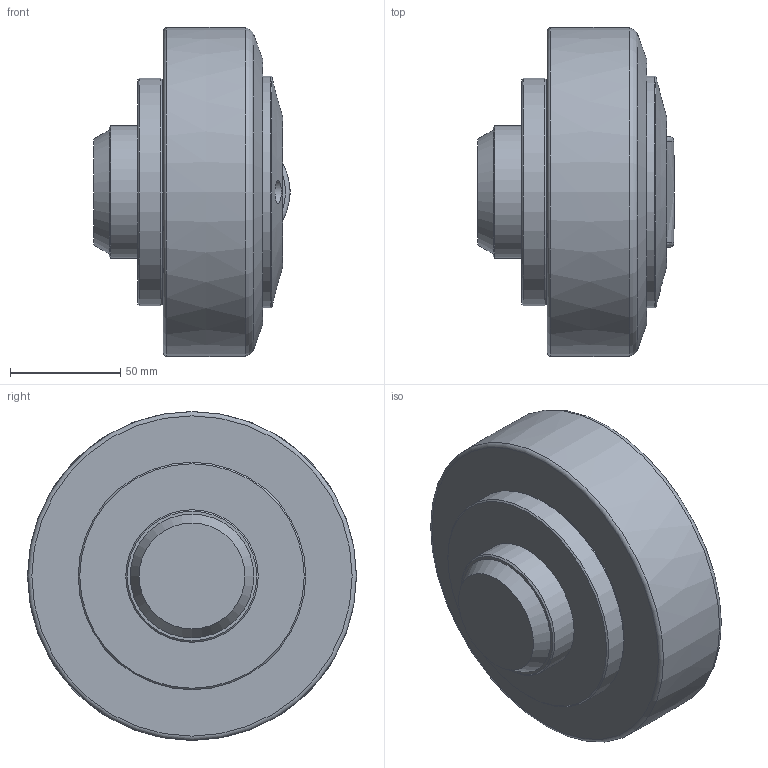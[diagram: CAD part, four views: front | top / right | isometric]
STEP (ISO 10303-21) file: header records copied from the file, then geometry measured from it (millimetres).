
FILE_DESCRIPTION(/* description */ (''),/* implementation_level */ '2;1');
FILE_NAME(/* name */ 'C:\Users\gabriele oddo\Desktop\400-0080.step',/* time_stamp */ '2023-07-26T08:19:40+02:00',/* author */ ('gabriele oddo'),/* organization */ (''),/* preprocessor_version */ 'ST-DEVELOPER v19',/* originating_system */ 'Autodesk Inventor 2023',/* authorisation */ '');
FILE_SCHEMA (('AUTOMOTIVE_DESIGN { 1 0 10303 214 3 1 1 }'));
Length unit declared in the file: millimetre
Products named in the file (1): 400-0080
Bounding box: 89 x 149 x 148.99 mm (x, y, z)
Volume: 979912.6 mm3; surface area: 61961.2 mm2
Topology: 1 solids, 1 shells, 44 faces, 99 edges, 66 vertices
Faces by surface type: plane 25, cylinder 6, cone 6, torus 5, bspline 2
Full cylindrical faces by diameter (mm): 10.7 x2, 60 x1, 101 x1, 103 x1, 105 x1
Entity records: 1456 total; most frequent: CARTESIAN_POINT 372, DIRECTION 209, ORIENTED_EDGE 198, EDGE_CURVE 99, AXIS2_PLACEMENT_3D 79, VERTEX_POINT 66, EDGE_LOOP 53, LINE 51
